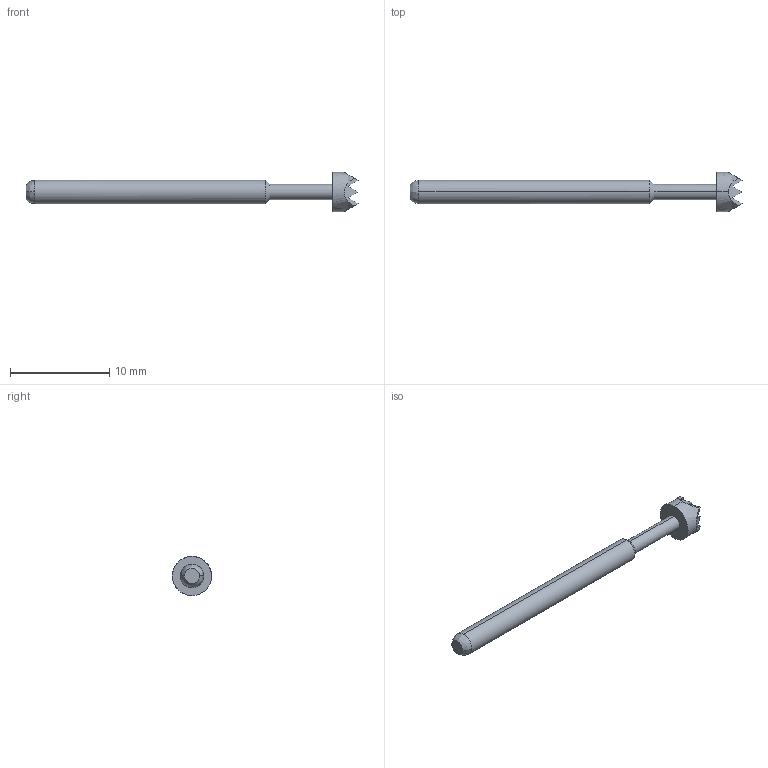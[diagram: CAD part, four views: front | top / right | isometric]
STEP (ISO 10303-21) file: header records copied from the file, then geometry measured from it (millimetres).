
FILE_DESCRIPTION (( 'STEP AP214' ), '1' );
FILE_NAME ('PA6H.STEP', '2025-03-31T13:00:11', ( '' ), ( '' ), 'SwSTEP 2.0', 'SolidWorks 2024', '' );
FILE_SCHEMA (( 'AUTOMOTIVE_DESIGN' ));
Length unit declared in the file: millimetre
Products named in the file (1): PA6H
Bounding box: 33.53 x 3.96 x 3.96 mm (x, y, z)
Volume: 140.8 mm3; surface area: 269.2 mm2
Topology: 1 solids, 1 shells, 40 faces, 78 edges, 41 vertices
Faces by surface type: bspline 40
Entity records: 1597 total; most frequent: CARTESIAN_POINT 634, ORIENTED_EDGE 156, EDGE_CURVE 78, B_SPLINE_CURVE_WITH_KNOTS 66, UNCERTAINTY_MEASURE_WITH_UNIT 42, STYLED_ITEM 41, SURFACE_STYLE_USAGE 41, EDGE_LOOP 41
